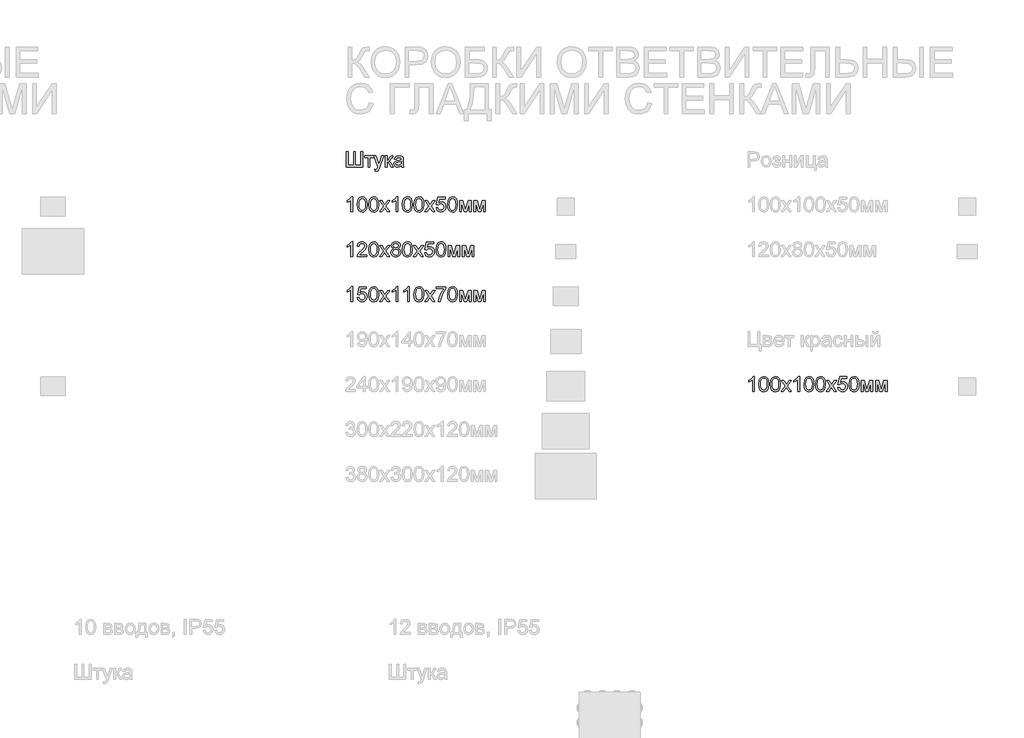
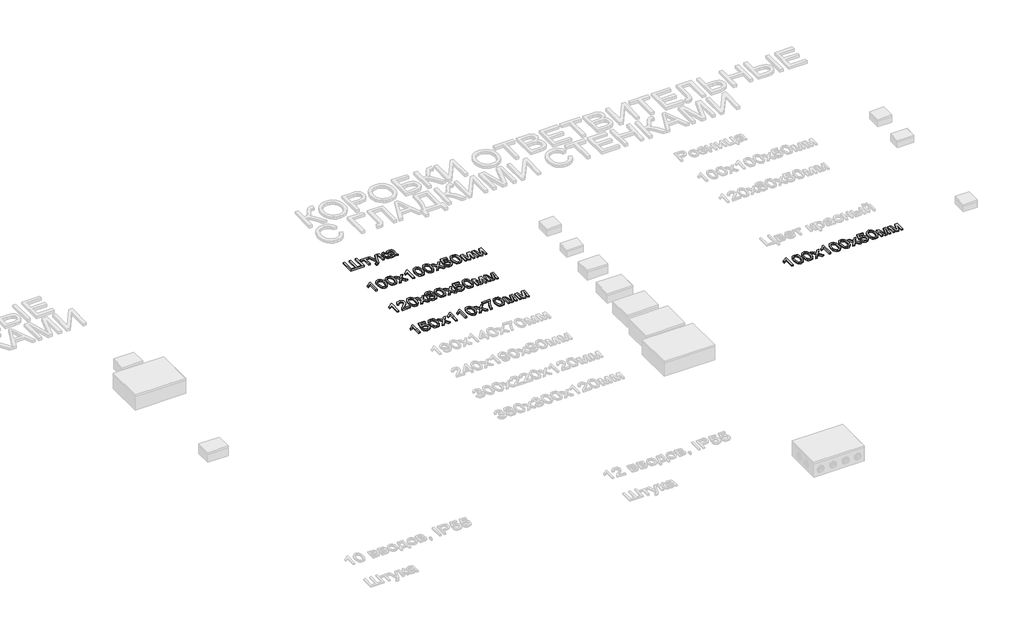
# One storey, part 30 of 98: 5 proxies.
"""IFC4 building model written with IfcOpenShell, lengths in millimetres."""

from ifc_helpers import new_model, si_unit, origin, origin_with_axes, place, context, project, spatial, polyline, outline, extrude, element, save

model = new_model("IFC4")

# Units and contexts
model_context = context("Model", 3, world=origin())
ifc_project = project(units=[si_unit("LENGTHUNIT", "METRE", prefix="MILLI")], contexts=[model_context])

# Site, building, storey
site = spatial("IfcSite", under=ifc_project)
building = spatial("IfcBuilding", under=site)
storey = spatial("IfcBuildingStorey", under=building, Name="Этаж 01", Elevation=0.0)

# Proxies
placement = place(None, origin())
element("IfcBuildingElementProxy", 1, Name="100", ObjectType="100", at=placement, inside=storey, context=model_context, shape_type="SweptSolid", body=[
    extrude(outline(polyline([(12009.4694239, -42337.5373486), (11996.9123851, -42337.5373486), (11996.9123851, -42259.25206), (11985.0175339, -42267.7256087), (11971.7983076, -42274.0654417), (11971.7983076, -42262.195116), (11990.2046701, -42250.4474176), (12001.37602, -42237.0810385), (12009.4694239, -42237.0810385), (12009.4694239, -42337.5373486)])), origin_with_axes(), (0.0, 0.0, 1.0), 10.0),
    extrude(outline(polyline([(12039.292391, -42288.1185339), (12042.9834736, -42259.2152718), (12053.9463571, -42242.5502175), (12072.2546177, -42237.0810385), (12086.9208466, -42240.3184), (12097.0498642, -42249.65034), (12102.9359761, -42264.5127726), (12105.2168445, -42288.1185339), (12101.56255, -42316.8991687), (12090.6364548, -42333.6010113), (12082.4050951, -42337.7304867), (12072.2546177, -42339.1069785), (12059.2070696, -42336.7157455), (12049.2987812, -42329.5420466), (12041.7939885, -42312.5520298), (12039.292391, -42288.1185339)]), holes=[polyline([(12051.8494297, -42288.0940085), (12053.3209577, -42307.8462059), (12057.7355417, -42319.2781389), (12064.3083666, -42324.7319895), (12072.2546177, -42326.5499397), (12080.2008688, -42324.7258581), (12086.7736938, -42319.2536135), (12091.1882778, -42307.8155491), (12092.6598057, -42288.0940085), (12091.2373287, -42268.7863351), (12086.9698975, -42257.2654973), (12080.4093353, -42251.5449322), (12072.1074649, -42249.6380772), (12064.247053, -42251.3180717), (12057.9317454, -42256.358055), (12053.3700086, -42268.5962627), (12051.8494297, -42288.0940085)])]), origin_with_axes(), (0.0, 0.0, 1.0), 10.0),
    extrude(outline(polyline([(12116.2042534, -42288.1185339), (12119.8953361, -42259.2152718), (12130.8582196, -42242.5502175), (12149.1664802, -42237.0810385), (12163.8327091, -42240.3184), (12173.9617267, -42249.65034), (12179.8478386, -42264.5127726), (12182.128707, -42288.1185339), (12178.4744125, -42316.8991687), (12167.5483172, -42333.6010113), (12159.3169576, -42337.7304867), (12149.1664802, -42339.1069785), (12136.1189321, -42336.7157455), (12126.2106437, -42329.5420466), (12118.705851, -42312.5520298), (12116.2042534, -42288.1185339)]), holes=[polyline([(12128.7612922, -42288.0940085), (12130.2328202, -42307.8462059), (12134.6474041, -42319.2781389), (12141.2202291, -42324.7319895), (12149.1664802, -42326.5499397), (12157.1127313, -42324.7258581), (12163.6855563, -42319.2536135), (12168.1001402, -42307.8155491), (12169.5716682, -42288.0940085), (12168.1491911, -42268.7863351), (12163.88176, -42257.2654973), (12157.3211978, -42251.5449322), (12149.0193274, -42249.6380772), (12141.1589154, -42251.3180717), (12134.8436078, -42256.358055), (12130.2818711, -42268.5962627), (12128.7612922, -42288.0940085)])]), origin_with_axes(), (0.0, 0.0, 1.0), 10.0),
    extrude(outline(polyline([(12188.4072263, -42337.5373486), (12215.2380865, -42300.4548435), (12189.9768562, -42263.7647458), (12205.0845435, -42263.7647458), (12217.2737002, -42281.4230816), (12222.9636084, -42289.7617402), (12227.8932272, -42282.9436605), (12241.7746411, -42263.7647458), (12256.8823284, -42263.7647458), (12230.3457738, -42300.4548435), (12255.9013097, -42337.5373486), (12240.7936225, -42337.5373486), (12225.4161551, -42315.2436997), (12222.5957264, -42311.1724723), (12203.5149136, -42337.5373486), (12188.4072263, -42337.5373486)])), origin_with_axes(), (0.0, 0.0, 1.0), 10.0),
    extrude(outline(polyline([(12310.8383543, -42337.5373486), (12298.2813156, -42337.5373486), (12298.2813156, -42259.25206), (12286.3864644, -42267.7256087), (12273.167238, -42274.0654417), (12273.167238, -42262.195116), (12291.5736005, -42250.4474176), (12302.7449504, -42237.0810385), (12310.8383543, -42237.0810385), (12310.8383543, -42337.5373486)])), origin_with_axes(), (0.0, 0.0, 1.0), 10.0),
    extrude(outline(polyline([(12340.6613214, -42288.1185339), (12344.3524041, -42259.2152718), (12355.3152876, -42242.5502175), (12373.6235482, -42237.0810385), (12388.2897771, -42240.3184), (12398.4187947, -42249.65034), (12404.3049066, -42264.5127726), (12406.5857749, -42288.1185339), (12402.9314805, -42316.8991687), (12392.0053852, -42333.6010113), (12383.7740256, -42337.7304867), (12373.6235482, -42339.1069785), (12360.5760001, -42336.7157455), (12350.6677117, -42329.5420466), (12343.162919, -42312.5520298), (12340.6613214, -42288.1185339)]), holes=[polyline([(12353.2183602, -42288.0940085), (12354.6898882, -42307.8462059), (12359.1044721, -42319.2781389), (12365.6772971, -42324.7319895), (12373.6235482, -42326.5499397), (12381.5697993, -42324.7258581), (12388.1426243, -42319.2536135), (12392.5572082, -42307.8155491), (12394.0287362, -42288.0940085), (12392.6062591, -42268.7863351), (12388.338828, -42257.2654973), (12381.7782657, -42251.5449322), (12373.4763954, -42249.6380772), (12365.6159834, -42251.3180717), (12359.3006758, -42256.358055), (12354.7389391, -42268.5962627), (12353.2183602, -42288.0940085)])]), origin_with_axes(), (0.0, 0.0, 1.0), 10.0),
    extrude(outline(polyline([(12417.5731839, -42288.1185339), (12421.2642666, -42259.2152718), (12432.22715, -42242.5502175), (12450.5354106, -42237.0810385), (12465.2016395, -42240.3184), (12475.3306571, -42249.65034), (12481.216769, -42264.5127726), (12483.4976374, -42288.1185339), (12479.8433429, -42316.8991687), (12468.9172477, -42333.6010113), (12460.685888, -42337.7304867), (12450.5354106, -42339.1069785), (12437.4878625, -42336.7157455), (12427.5795741, -42329.5420466), (12420.0747814, -42312.5520298), (12417.5731839, -42288.1185339)]), holes=[polyline([(12430.1302226, -42288.0940085), (12431.6017506, -42307.8462059), (12436.0163346, -42319.2781389), (12442.5891595, -42324.7319895), (12450.5354106, -42326.5499397), (12458.4816617, -42324.7258581), (12465.0544867, -42319.2536135), (12469.4690707, -42307.8155491), (12470.9405986, -42288.0940085), (12469.5181216, -42268.7863351), (12465.2506904, -42257.2654973), (12458.6901282, -42251.5449322), (12450.3882578, -42249.6380772), (12442.5278459, -42251.3180717), (12436.2125383, -42256.358055), (12431.6508016, -42268.5962627), (12430.1302226, -42288.0940085)])]), origin_with_axes(), (0.0, 0.0, 1.0), 10.0),
    extrude(outline(polyline([(12489.7761568, -42337.5373486), (12516.607017, -42300.4548435), (12491.3457866, -42263.7647458), (12506.4534739, -42263.7647458), (12518.6426307, -42281.4230816), (12524.3325389, -42289.7617402), (12529.2621576, -42282.9436605), (12543.1435716, -42263.7647458), (12558.2512588, -42263.7647458), (12531.7147042, -42300.4548435), (12557.2702402, -42337.5373486), (12542.1625529, -42337.5373486), (12526.7850855, -42315.2436997), (12523.9646569, -42311.1724723), (12504.8838441, -42337.5373486), (12489.7761568, -42337.5373486)])), origin_with_axes(), (0.0, 0.0, 1.0), 10.0),
    extrude(outline(polyline([(12565.1183894, -42310.8536412), (12577.6754282, -42309.2840114), (12584.0029985, -42322.2211949), (12597.124123, -42326.5499397), (12606.1249691, -42325.0446892), (12612.8694724, -42320.5289377), (12617.0817212, -42313.5238514), (12618.4858042, -42304.5505964), (12613.2250916, -42289.6391128), (12606.6185441, -42285.5372286), (12597.3203267, -42284.1699338), (12586.2961296, -42286.3527004), (12579.245058, -42292.0180831), (12566.6880192, -42290.4484532), (12577.6754282, -42238.6506683), (12626.3339534, -42238.6506683), (12626.3339534, -42251.2077071), (12587.8289712, -42251.2077071), (12582.4578941, -42278.8724331), (12591.4280834, -42273.4277796), (12600.8274684, -42271.6128951), (12612.5598384, -42273.8631066), (12622.2995142, -42280.6137412), (12628.8570108, -42290.9021744), (12631.0428429, -42303.7657815), (12629.0746743, -42316.3228202), (12623.1701682, -42327.0649745), (12611.8639283, -42336.0964775), (12597.0750721, -42339.1069785), (12584.7418282, -42337.1725323), (12574.9163132, -42331.3691938), (12568.181007, -42322.3714134), (12565.1183894, -42310.8536412)])), origin_with_axes(), (0.0, 0.0, 1.0), 10.0),
    extrude(outline(polyline([(12642.0302519, -42288.1185339), (12645.7213345, -42259.2152718), (12656.684218, -42242.5502175), (12674.9924786, -42237.0810385), (12689.6587075, -42240.3184), (12699.7877251, -42249.65034), (12705.673837, -42264.5127726), (12707.9547054, -42288.1185339), (12704.3004109, -42316.8991687), (12693.3743157, -42333.6010113), (12685.142956, -42337.7304867), (12674.9924786, -42339.1069785), (12661.9449305, -42336.7157455), (12652.0366421, -42329.5420466), (12644.5318494, -42312.5520298), (12642.0302519, -42288.1185339)]), holes=[polyline([(12654.5872906, -42288.0940085), (12656.0588186, -42307.8462059), (12660.4734026, -42319.2781389), (12667.0462275, -42324.7319895), (12674.9924786, -42326.5499397), (12682.9387297, -42324.7258581), (12689.5115547, -42319.2536135), (12693.9261386, -42307.8155491), (12695.3976666, -42288.0940085), (12693.9751896, -42268.7863351), (12689.7077584, -42257.2654973), (12683.1471962, -42251.5449322), (12674.8453258, -42249.6380772), (12666.9849139, -42251.3180717), (12660.6696063, -42256.358055), (12656.1078695, -42268.5962627), (12654.5872906, -42288.0940085)])]), origin_with_axes(), (0.0, 0.0, 1.0), 10.0),
    extrude(outline(polyline([(12722.081374, -42263.7647458), (12743.6883099, -42263.7647458), (12760.3411015, -42322.8220688), (12778.2937429, -42263.7647458), (12798.9932365, -42263.7647458), (12798.9932365, -42337.5373486), (12786.4361977, -42337.5373486), (12786.4361977, -42278.1366691), (12768.3854545, -42337.5373486), (12751.9043411, -42337.5373486), (12734.6384128, -42275.291715), (12734.6384128, -42337.5373486), (12722.081374, -42337.5373486), (12722.081374, -42263.7647458)])), origin_with_axes(), (0.0, 0.0, 1.0), 10.0),
    extrude(outline(polyline([(12817.8287946, -42263.7647458), (12839.4357305, -42263.7647458), (12856.0885221, -42322.8220688), (12874.0411635, -42263.7647458), (12894.7406571, -42263.7647458), (12894.7406571, -42337.5373486), (12882.1836183, -42337.5373486), (12882.1836183, -42278.1366691), (12864.1328751, -42337.5373486), (12847.6517617, -42337.5373486), (12830.3858334, -42275.291715), (12830.3858334, -42337.5373486), (12817.8287946, -42337.5373486), (12817.8287946, -42263.7647458)])), origin_with_axes(), (0.0, 0.0, 1.0), 10.0),
])
element("IfcBuildingElementProxy", 2, Name="100", ObjectType="100", at=placement, inside=storey, context=model_context, shape_type="SweptSolid", body=[
    extrude(outline(polyline([(11965.5197882, -41937.0810385), (11978.076827, -41937.0810385), (11978.076827, -42024.9803098), (12014.1783134, -42024.9803098), (12014.1783134, -41937.0810385), (12026.7353522, -41937.0810385), (12026.7353522, -42024.9803098), (12062.8368387, -42024.9803098), (12062.8368387, -41937.0810385), (12075.3938774, -41937.0810385), (12075.3938774, -42037.5373486), (11965.5197882, -42037.5373486), (11965.5197882, -41937.0810385)])), origin_with_axes(), (0.0, 0.0, 1.0), 10.0),
    extrude(outline(polyline([(12087.9509162, -41963.7647458), (12147.5968503, -41963.7647458), (12147.5968503, -41976.3217846), (12124.0524027, -41976.3217846), (12124.0524027, -42037.5373486), (12111.4953639, -42037.5373486), (12111.4953639, -41976.3217846), (12087.9509162, -41976.3217846), (12087.9509162, -41963.7647458)])), origin_with_axes(), (0.0, 0.0, 1.0), 10.0),
    extrude(outline(polyline([(12158.5842593, -42065.7906858), (12157.0146294, -42053.6996309), (12163.3912507, -42054.8032769), (12169.350939, -42053.4175881), (12173.0052335, -42049.5548271), (12176.4387988, -42040.3087263), (12177.4198174, -42037.2675685), (12150.73611, -41963.7647458), (12163.9798619, -41963.7647458), (12178.1310559, -42004.7222746), (12183.0606747, -42021.1052862), (12187.9902934, -42006.635261), (12202.533895, -41963.7647458), (12215.6795449, -41963.7647458), (12190.0013817, -42039.3031822), (12183.3304548, -42055.6861937), (12176.0463913, -42064.5398871), (12166.2607302, -42067.3603157), (12158.5842593, -42065.7906858)])), origin_with_axes(), (0.0, 0.0, 1.0), 10.0),
    extrude(outline(polyline([(12226.0783426, -41963.7647458), (12238.6353814, -41963.7647458), (12238.6353814, -41995.1573428), (12247.0476164, -41992.9009999), (12253.9392724, -41979.7553499), (12259.6659688, -41968.4123217), (12264.7182149, -41964.721239), (12273.903002, -41963.7647458), (12276.3064977, -41963.7647458), (12276.3064977, -41976.395361), (12272.9219834, -41976.3217846), (12266.7906168, -41977.6461598), (12262.4741347, -41985.911242), (12257.4096259, -41994.8507744), (12250.3095034, -41999.2285702), (12258.231229, -42004.1152694), (12266.0058019, -42014.4098338), (12279.4457574, -42037.5373486), (12265.171936, -42037.5373486), (12252.0017606, -42014.9003432), (12245.3798847, -42005.3231486), (12238.6353814, -42003.005492), (12238.6353814, -42037.5373486), (12226.0783426, -42037.5373486), (12226.0783426, -41963.7647458)])), origin_with_axes(), (0.0, 0.0, 1.0), 10.0),
    extrude(outline(polyline([(12334.382802, -42028.1195695), (12322.205908, -42036.6299064), (12308.7536897, -42039.1069785), (12298.2598558, -42037.6170564), (12290.5190055, -42033.1472901), (12285.7457366, -42026.3598673), (12284.154647, -42017.9169755), (12286.5581427, -42007.9841617), (12292.8734502, -42000.7736746), (12301.6658299, -41996.6533962), (12312.5306115, -41994.7649353), (12334.3092256, -41990.4484532), (12334.382802, -41987.6525501), (12330.9247113, -41978.3819238), (12317.0432973, -41974.7521548), (12304.3391058, -41977.1679132), (12298.2813156, -41985.7395637), (12285.7242768, -41984.1699338), (12291.1566676, -41971.9072007), (12302.0950256, -41964.721239), (12318.6619781, -41962.195116), (12333.88003, -41964.4269334), (12342.4762059, -41970.0310025), (12346.3267041, -41978.5536021), (12346.9398408, -41989.541011), (12346.9398408, -42005.163733), (12347.5775029, -42026.9791354), (12350.0791005, -42037.5373486), (12337.5220617, -42037.5373486), (12334.382802, -42028.1195695)]), holes=[polyline([(12334.382802, -42003.005492), (12314.1247668, -42006.8559902), (12303.3212989, -42008.8916039), (12298.4284684, -42012.2025419), (12296.7116857, -42017.0340587), (12300.4518193, -42023.8276129), (12311.4269655, -42026.5499397), (12324.1311571, -42023.5455701), (12332.3226629, -42016.2737693), (12334.3092256, -42006.5616846), (12334.382802, -42003.005492)])]), origin_with_axes(), (0.0, 0.0, 1.0), 10.0),
])
element("IfcBuildingElementProxy", 3, Name="100", ObjectType="100", at=placement, inside=storey, context=model_context, shape_type="SweptSolid", body=[
    extrude(outline(polyline([(12009.4694239, -42637.5373486), (11996.9123851, -42637.5373486), (11996.9123851, -42559.25206), (11985.0175339, -42567.7256087), (11971.7983076, -42574.0654417), (11971.7983076, -42562.195116), (11990.2046701, -42550.4474176), (12001.37602, -42537.0810385), (12009.4694239, -42537.0810385), (12009.4694239, -42637.5373486)])), origin_with_axes(), (0.0, 0.0, 1.0), 10.0),
    extrude(outline(polyline([(12103.6472147, -42624.9803098), (12103.6472147, -42637.5373486), (12037.7227611, -42637.5373486), (12039.0716618, -42628.879859), (12046.6990818, -42615.550268), (12062.4199057, -42600.9944038), (12084.100418, -42580.074181), (12089.520546, -42565.8494105), (12084.4069863, -42554.334704), (12071.0528699, -42549.6380772), (12057.1346677, -42554.2243394), (12051.8494297, -42566.9040055), (12039.292391, -42565.3343757), (12042.3366145, -42553.1881385), (12048.9186365, -42544.316051), (12058.6951005, -42538.8897916), (12071.32265, -42537.0810385), (12084.04217, -42539.0921267), (12093.8002399, -42545.1253914), (12100.0082486, -42554.1385003), (12102.0775848, -42565.089121), (12099.8457674, -42576.9962349), (12092.4268138, -42589.308019), (12074.4373842, -42606.5126337), (12059.9918846, -42618.5914259), (12054.3265018, -42624.9803098), (12103.6472147, -42624.9803098)])), origin_with_axes(), (0.0, 0.0, 1.0), 10.0),
    extrude(outline(polyline([(12116.2042534, -42588.1185339), (12119.8953361, -42559.2152718), (12130.8582196, -42542.5502175), (12149.1664802, -42537.0810385), (12163.8327091, -42540.3184), (12173.9617267, -42549.65034), (12179.8478386, -42564.5127726), (12182.128707, -42588.1185339), (12178.4744125, -42616.8991687), (12167.5483172, -42633.6010113), (12159.3169576, -42637.7304867), (12149.1664802, -42639.1069785), (12136.1189321, -42636.7157455), (12126.2106437, -42629.5420466), (12118.705851, -42612.5520298), (12116.2042534, -42588.1185339)]), holes=[polyline([(12128.7612922, -42588.0940085), (12130.2328202, -42607.8462059), (12134.6474041, -42619.2781389), (12141.2202291, -42624.7319895), (12149.1664802, -42626.5499397), (12157.1127313, -42624.7258581), (12163.6855563, -42619.2536135), (12168.1001402, -42607.8155491), (12169.5716682, -42588.0940085), (12168.1491911, -42568.7863351), (12163.88176, -42557.2654973), (12157.3211978, -42551.5449322), (12149.0193274, -42549.6380772), (12141.1589154, -42551.3180717), (12134.8436078, -42556.358055), (12130.2818711, -42568.5962627), (12128.7612922, -42588.0940085)])]), origin_with_axes(), (0.0, 0.0, 1.0), 10.0),
    extrude(outline(polyline([(12188.4072263, -42637.5373486), (12215.2380865, -42600.4548435), (12189.9768562, -42563.7647458), (12205.0845435, -42563.7647458), (12217.2737002, -42581.4230816), (12222.9636084, -42589.7617402), (12227.8932272, -42582.9436605), (12241.7746411, -42563.7647458), (12256.8823284, -42563.7647458), (12230.3457738, -42600.4548435), (12255.9013097, -42637.5373486), (12240.7936225, -42637.5373486), (12225.4161551, -42615.2436997), (12222.5957264, -42611.1724723), (12203.5149136, -42637.5373486), (12188.4072263, -42637.5373486)])), origin_with_axes(), (0.0, 0.0, 1.0), 10.0),
    extrude(outline(polyline([(12282.0454568, -42582.2078965), (12270.6043268, -42574.4087982), (12266.8887186, -42562.2686924), (12268.9120696, -42552.4523745), (12274.9821225, -42544.3405765), (12284.4182957, -42538.895923), (12296.5400075, -42537.0810385), (12308.7352956, -42538.9388425), (12318.2940961, -42544.5122548), (12324.4745136, -42552.7528115), (12326.5346528, -42562.6120489), (12322.8680956, -42574.4455864), (12311.7457966, -42582.2078965), (12325.099913, -42592.0548713), (12329.6739125, -42608.3029927), (12327.4053069, -42620.3082085), (12320.5994899, -42630.2287596), (12310.0903276, -42636.8874238), (12296.7116857, -42639.1069785), (12283.3330438, -42636.8782267), (12272.8238815, -42630.1919714), (12266.0180646, -42620.1763841), (12263.749459, -42607.9596362), (12268.5073994, -42591.33137), (12282.0454568, -42582.2078965)]), holes=[polyline([(12276.3064977, -42607.5181778), (12278.4034251, -42616.9727451), (12285.8223787, -42624.0483421), (12296.8097876, -42626.5499397), (12305.3569126, -42625.2347616), (12311.7703221, -42621.2892272), (12317.1168737, -42607.9105853), (12311.5986438, -42594.274426), (12305.0380815, -42590.227724), (12296.3928547, -42588.8788234), (12287.9652913, -42590.2093299), (12281.6162612, -42594.2008496), (12276.3064977, -42607.5181778)]), polyline([(12279.4457574, -42562.6365744), (12283.8971296, -42572.4958119), (12296.8588385, -42576.3217846), (12309.5630301, -42572.5203373), (12313.977614, -42563.2006601), (12309.4158773, -42553.5498891), (12296.7116857, -42549.6380772), (12283.970706, -42553.46405), (12279.4457574, -42562.6365744)])]), origin_with_axes(), (0.0, 0.0, 1.0), 10.0),
    extrude(outline(polyline([(12340.6613214, -42588.1185339), (12344.3524041, -42559.2152718), (12355.3152876, -42542.5502175), (12373.6235482, -42537.0810385), (12388.2897771, -42540.3184), (12398.4187947, -42549.65034), (12404.3049066, -42564.5127726), (12406.5857749, -42588.1185339), (12402.9314805, -42616.8991687), (12392.0053852, -42633.6010113), (12383.7740256, -42637.7304867), (12373.6235482, -42639.1069785), (12360.5760001, -42636.7157455), (12350.6677117, -42629.5420466), (12343.162919, -42612.5520298), (12340.6613214, -42588.1185339)]), holes=[polyline([(12353.2183602, -42588.0940085), (12354.6898882, -42607.8462059), (12359.1044721, -42619.2781389), (12365.6772971, -42624.7319895), (12373.6235482, -42626.5499397), (12381.5697993, -42624.7258581), (12388.1426243, -42619.2536135), (12392.5572082, -42607.8155491), (12394.0287362, -42588.0940085), (12392.6062591, -42568.7863351), (12388.338828, -42557.2654973), (12381.7782657, -42551.5449322), (12373.4763954, -42549.6380772), (12365.6159834, -42551.3180717), (12359.3006758, -42556.358055), (12354.7389391, -42568.5962627), (12353.2183602, -42588.0940085)])]), origin_with_axes(), (0.0, 0.0, 1.0), 10.0),
    extrude(outline(polyline([(12412.8642943, -42637.5373486), (12439.6951545, -42600.4548435), (12414.4339242, -42563.7647458), (12429.5416114, -42563.7647458), (12441.7307682, -42581.4230816), (12447.4206764, -42589.7617402), (12452.3502951, -42582.9436605), (12466.2317091, -42563.7647458), (12481.3393964, -42563.7647458), (12454.8028418, -42600.4548435), (12480.3583777, -42637.5373486), (12465.2506904, -42637.5373486), (12449.873223, -42615.2436997), (12447.0527944, -42611.1724723), (12427.9719816, -42637.5373486), (12412.8642943, -42637.5373486)])), origin_with_axes(), (0.0, 0.0, 1.0), 10.0),
    extrude(outline(polyline([(12488.2065269, -42610.8536412), (12500.7635657, -42609.2840114), (12507.091136, -42622.2211949), (12520.2122605, -42626.5499397), (12529.2131067, -42625.0446892), (12535.9576099, -42620.5289377), (12540.1698588, -42613.5238514), (12541.5739417, -42604.5505964), (12536.3132292, -42589.6391128), (12529.7066817, -42585.5372286), (12520.4084643, -42584.1699338), (12509.3842671, -42586.3527004), (12502.3331956, -42592.0180831), (12489.7761568, -42590.4484532), (12500.7635657, -42538.6506683), (12549.4220909, -42538.6506683), (12549.4220909, -42551.2077071), (12510.9171088, -42551.2077071), (12505.5460317, -42578.8724331), (12514.516221, -42573.4277796), (12523.9156059, -42571.6128951), (12535.6479759, -42573.8631066), (12545.3876517, -42580.6137412), (12551.9451483, -42590.9021744), (12554.1309805, -42603.7657815), (12552.1628118, -42616.3228202), (12546.2583058, -42627.0649745), (12534.9520658, -42636.0964775), (12520.1632096, -42639.1069785), (12507.8299657, -42637.1725323), (12498.0044508, -42631.3691938), (12491.2691446, -42622.3714134), (12488.2065269, -42610.8536412)])), origin_with_axes(), (0.0, 0.0, 1.0), 10.0),
    extrude(outline(polyline([(12565.1183894, -42588.1185339), (12568.8094721, -42559.2152718), (12579.7723555, -42542.5502175), (12598.0806162, -42537.0810385), (12612.746845, -42540.3184), (12622.8758626, -42549.65034), (12628.7619746, -42564.5127726), (12631.0428429, -42588.1185339), (12627.3885485, -42616.8991687), (12616.4624532, -42633.6010113), (12608.2310936, -42637.7304867), (12598.0806162, -42639.1069785), (12585.0330681, -42636.7157455), (12575.1247797, -42629.5420466), (12567.619987, -42612.5520298), (12565.1183894, -42588.1185339)]), holes=[polyline([(12577.6754282, -42588.0940085), (12579.1469562, -42607.8462059), (12583.5615401, -42619.2781389), (12590.1343651, -42624.7319895), (12598.0806162, -42626.5499397), (12606.0268673, -42624.7258581), (12612.5996922, -42619.2536135), (12617.0142762, -42607.8155491), (12618.4858042, -42588.0940085), (12617.0633271, -42568.7863351), (12612.795896, -42557.2654973), (12606.2353337, -42551.5449322), (12597.9334634, -42549.6380772), (12590.0730514, -42551.3180717), (12583.7577438, -42556.358055), (12579.1960071, -42568.5962627), (12577.6754282, -42588.0940085)])]), origin_with_axes(), (0.0, 0.0, 1.0), 10.0),
    extrude(outline(polyline([(12645.1695116, -42563.7647458), (12666.7764474, -42563.7647458), (12683.4292391, -42622.8220688), (12701.3818804, -42563.7647458), (12722.081374, -42563.7647458), (12722.081374, -42637.5373486), (12709.5243352, -42637.5373486), (12709.5243352, -42578.1366691), (12691.473592, -42637.5373486), (12674.9924786, -42637.5373486), (12657.7265503, -42575.291715), (12657.7265503, -42637.5373486), (12645.1695116, -42637.5373486), (12645.1695116, -42563.7647458)])), origin_with_axes(), (0.0, 0.0, 1.0), 10.0),
    extrude(outline(polyline([(12740.9169322, -42563.7647458), (12762.523868, -42563.7647458), (12779.1766597, -42622.8220688), (12797.129301, -42563.7647458), (12817.8287946, -42563.7647458), (12817.8287946, -42637.5373486), (12805.2717559, -42637.5373486), (12805.2717559, -42578.1366691), (12787.2210126, -42637.5373486), (12770.7398992, -42637.5373486), (12753.4739709, -42575.291715), (12753.4739709, -42637.5373486), (12740.9169322, -42637.5373486), (12740.9169322, -42563.7647458)])), origin_with_axes(), (0.0, 0.0, 1.0), 10.0),
])
element("IfcBuildingElementProxy", 4, Name="100", ObjectType="100", at=placement, inside=storey, context=model_context, shape_type="SweptSolid", body=[
    extrude(outline(polyline([(12009.4694239, -42937.5373486), (11996.9123851, -42937.5373486), (11996.9123851, -42859.25206), (11985.0175339, -42867.7256087), (11971.7983076, -42874.0654417), (11971.7983076, -42862.195116), (11990.2046701, -42850.4474176), (12001.37602, -42837.0810385), (12009.4694239, -42837.0810385), (12009.4694239, -42937.5373486)])), origin_with_axes(), (0.0, 0.0, 1.0), 10.0),
    extrude(outline(polyline([(12039.292391, -42910.8536412), (12051.8494297, -42909.2840114), (12058.1770001, -42922.2211949), (12071.2981245, -42926.5499397), (12080.2989707, -42925.0446892), (12087.0434739, -42920.5289377), (12091.2557228, -42913.5238514), (12092.6598057, -42904.5505964), (12087.3990932, -42889.6391128), (12080.7925457, -42885.5372286), (12071.4943283, -42884.1699338), (12060.4701312, -42886.3527004), (12053.4190596, -42892.0180831), (12040.8620208, -42890.4484532), (12051.8494297, -42838.6506683), (12100.507955, -42838.6506683), (12100.507955, -42851.2077071), (12062.0029728, -42851.2077071), (12056.6318957, -42878.8724331), (12065.602085, -42873.4277796), (12075.00147, -42871.6128951), (12086.7338399, -42873.8631066), (12096.4735157, -42880.6137412), (12103.0310123, -42890.9021744), (12105.2168445, -42903.7657815), (12103.2486758, -42916.3228202), (12097.3441698, -42927.0649745), (12086.0379298, -42936.0964775), (12071.2490736, -42939.1069785), (12058.9158297, -42937.1725323), (12049.0903148, -42931.3691938), (12042.3550086, -42922.3714134), (12039.292391, -42910.8536412)])), origin_with_axes(), (0.0, 0.0, 1.0), 10.0),
    extrude(outline(polyline([(12116.2042534, -42888.1185339), (12119.8953361, -42859.2152718), (12130.8582196, -42842.5502175), (12149.1664802, -42837.0810385), (12163.8327091, -42840.3184), (12173.9617267, -42849.65034), (12179.8478386, -42864.5127726), (12182.128707, -42888.1185339), (12178.4744125, -42916.8991687), (12167.5483172, -42933.6010113), (12159.3169576, -42937.7304867), (12149.1664802, -42939.1069785), (12136.1189321, -42936.7157455), (12126.2106437, -42929.5420466), (12118.705851, -42912.5520298), (12116.2042534, -42888.1185339)]), holes=[polyline([(12128.7612922, -42888.0940085), (12130.2328202, -42907.8462059), (12134.6474041, -42919.2781389), (12141.2202291, -42924.7319895), (12149.1664802, -42926.5499397), (12157.1127313, -42924.7258581), (12163.6855563, -42919.2536135), (12168.1001402, -42907.8155491), (12169.5716682, -42888.0940085), (12168.1491911, -42868.7863351), (12163.88176, -42857.2654973), (12157.3211978, -42851.5449322), (12149.0193274, -42849.6380772), (12141.1589154, -42851.3180717), (12134.8436078, -42856.358055), (12130.2818711, -42868.5962627), (12128.7612922, -42888.0940085)])]), origin_with_axes(), (0.0, 0.0, 1.0), 10.0),
    extrude(outline(polyline([(12188.4072263, -42937.5373486), (12215.2380865, -42900.4548435), (12189.9768562, -42863.7647458), (12205.0845435, -42863.7647458), (12217.2737002, -42881.4230816), (12222.9636084, -42889.7617402), (12227.8932272, -42882.9436605), (12241.7746411, -42863.7647458), (12256.8823284, -42863.7647458), (12230.3457738, -42900.4548435), (12255.9013097, -42937.5373486), (12240.7936225, -42937.5373486), (12225.4161551, -42915.2436997), (12222.5957264, -42911.1724723), (12203.5149136, -42937.5373486), (12188.4072263, -42937.5373486)])), origin_with_axes(), (0.0, 0.0, 1.0), 10.0),
    extrude(outline(polyline([(12310.8383543, -42937.5373486), (12298.2813156, -42937.5373486), (12298.2813156, -42859.25206), (12286.3864644, -42867.7256087), (12273.167238, -42874.0654417), (12273.167238, -42862.195116), (12291.5736005, -42850.4474176), (12302.7449504, -42837.0810385), (12310.8383543, -42837.0810385), (12310.8383543, -42937.5373486)])), origin_with_axes(), (0.0, 0.0, 1.0), 10.0),
    extrude(outline(polyline([(12387.7502168, -42937.5373486), (12375.193178, -42937.5373486), (12375.193178, -42859.25206), (12363.2983268, -42867.7256087), (12350.0791005, -42874.0654417), (12350.0791005, -42862.195116), (12368.485463, -42850.4474176), (12379.6568129, -42837.0810385), (12387.7502168, -42837.0810385), (12387.7502168, -42937.5373486)])), origin_with_axes(), (0.0, 0.0, 1.0), 10.0),
    extrude(outline(polyline([(12417.5731839, -42888.1185339), (12421.2642666, -42859.2152718), (12432.22715, -42842.5502175), (12450.5354106, -42837.0810385), (12465.2016395, -42840.3184), (12475.3306571, -42849.65034), (12481.216769, -42864.5127726), (12483.4976374, -42888.1185339), (12479.8433429, -42916.8991687), (12468.9172477, -42933.6010113), (12460.685888, -42937.7304867), (12450.5354106, -42939.1069785), (12437.4878625, -42936.7157455), (12427.5795741, -42929.5420466), (12420.0747814, -42912.5520298), (12417.5731839, -42888.1185339)]), holes=[polyline([(12430.1302226, -42888.0940085), (12431.6017506, -42907.8462059), (12436.0163346, -42919.2781389), (12442.5891595, -42924.7319895), (12450.5354106, -42926.5499397), (12458.4816617, -42924.7258581), (12465.0544867, -42919.2536135), (12469.4690707, -42907.8155491), (12470.9405986, -42888.0940085), (12469.5181216, -42868.7863351), (12465.2506904, -42857.2654973), (12458.6901282, -42851.5449322), (12450.3882578, -42849.6380772), (12442.5278459, -42851.3180717), (12436.2125383, -42856.358055), (12431.6508016, -42868.5962627), (12430.1302226, -42888.0940085)])]), origin_with_axes(), (0.0, 0.0, 1.0), 10.0),
    extrude(outline(polyline([(12489.7761568, -42937.5373486), (12516.607017, -42900.4548435), (12491.3457866, -42863.7647458), (12506.4534739, -42863.7647458), (12518.6426307, -42881.4230816), (12524.3325389, -42889.7617402), (12529.2621576, -42882.9436605), (12543.1435716, -42863.7647458), (12558.2512588, -42863.7647458), (12531.7147042, -42900.4548435), (12557.2702402, -42937.5373486), (12542.1625529, -42937.5373486), (12526.7850855, -42915.2436997), (12523.9646569, -42911.1724723), (12504.8838441, -42937.5373486), (12489.7761568, -42937.5373486)])), origin_with_axes(), (0.0, 0.0, 1.0), 10.0),
    extrude(outline(polyline([(12565.1183894, -42851.2077071), (12565.1183894, -42838.6506683), (12631.0428429, -42838.6506683), (12631.0428429, -42848.8042114), (12612.3421749, -42875.8190126), (12598.0315652, -42910.2405046), (12593.3717266, -42937.5373486), (12580.8146879, -42937.5373486), (12585.8056203, -42909.210435), (12599.5030932, -42877.1924387), (12618.4858042, -42851.2077071), (12565.1183894, -42851.2077071)])), origin_with_axes(), (0.0, 0.0, 1.0), 10.0),
    extrude(outline(polyline([(12642.0302519, -42888.1185339), (12645.7213345, -42859.2152718), (12656.684218, -42842.5502175), (12674.9924786, -42837.0810385), (12689.6587075, -42840.3184), (12699.7877251, -42849.65034), (12705.673837, -42864.5127726), (12707.9547054, -42888.1185339), (12704.3004109, -42916.8991687), (12693.3743157, -42933.6010113), (12685.142956, -42937.7304867), (12674.9924786, -42939.1069785), (12661.9449305, -42936.7157455), (12652.0366421, -42929.5420466), (12644.5318494, -42912.5520298), (12642.0302519, -42888.1185339)]), holes=[polyline([(12654.5872906, -42888.0940085), (12656.0588186, -42907.8462059), (12660.4734026, -42919.2781389), (12667.0462275, -42924.7319895), (12674.9924786, -42926.5499397), (12682.9387297, -42924.7258581), (12689.5115547, -42919.2536135), (12693.9261386, -42907.8155491), (12695.3976666, -42888.0940085), (12693.9751896, -42868.7863351), (12689.7077584, -42857.2654973), (12683.1471962, -42851.5449322), (12674.8453258, -42849.6380772), (12666.9849139, -42851.3180717), (12660.6696063, -42856.358055), (12656.1078695, -42868.5962627), (12654.5872906, -42888.0940085)])]), origin_with_axes(), (0.0, 0.0, 1.0), 10.0),
    extrude(outline(polyline([(12722.081374, -42863.7647458), (12743.6883099, -42863.7647458), (12760.3411015, -42922.8220688), (12778.2937429, -42863.7647458), (12798.9932365, -42863.7647458), (12798.9932365, -42937.5373486), (12786.4361977, -42937.5373486), (12786.4361977, -42878.1366691), (12768.3854545, -42937.5373486), (12751.9043411, -42937.5373486), (12734.6384128, -42875.291715), (12734.6384128, -42937.5373486), (12722.081374, -42937.5373486), (12722.081374, -42863.7647458)])), origin_with_axes(), (0.0, 0.0, 1.0), 10.0),
    extrude(outline(polyline([(12817.8287946, -42863.7647458), (12839.4357305, -42863.7647458), (12856.0885221, -42922.8220688), (12874.0411635, -42863.7647458), (12894.7406571, -42863.7647458), (12894.7406571, -42937.5373486), (12882.1836183, -42937.5373486), (12882.1836183, -42878.1366691), (12864.1328751, -42937.5373486), (12847.6517617, -42937.5373486), (12830.3858334, -42875.291715), (12830.3858334, -42937.5373486), (12817.8287946, -42937.5373486), (12817.8287946, -42863.7647458)])), origin_with_axes(), (0.0, 0.0, 1.0), 10.0),
])
element("IfcBuildingElementProxy", 5, Name="100", ObjectType="100", at=placement, inside=storey, context=model_context, shape_type="SweptSolid", body=[
    extrude(outline(polyline([(14689.4694239, -43537.5373486), (14676.9123851, -43537.5373486), (14676.9123851, -43459.25206), (14665.0175339, -43467.7256087), (14651.7983076, -43474.0654417), (14651.7983076, -43462.195116), (14670.2046701, -43450.4474176), (14681.37602, -43437.0810385), (14689.4694239, -43437.0810385), (14689.4694239, -43537.5373486)])), origin_with_axes(), (0.0, 0.0, 1.0), 10.0),
    extrude(outline(polyline([(14719.292391, -43488.1185339), (14722.9834736, -43459.2152718), (14733.9463571, -43442.5502175), (14752.2546177, -43437.0810385), (14766.9208466, -43440.3184), (14777.0498642, -43449.65034), (14782.9359761, -43464.5127726), (14785.2168445, -43488.1185339), (14781.56255, -43516.8991687), (14770.6364548, -43533.6010113), (14762.4050951, -43537.7304867), (14752.2546177, -43539.1069785), (14739.2070696, -43536.7157455), (14729.2987812, -43529.5420466), (14721.7939885, -43512.5520298), (14719.292391, -43488.1185339)]), holes=[polyline([(14731.8494297, -43488.0940085), (14733.3209577, -43507.8462059), (14737.7355417, -43519.2781389), (14744.3083666, -43524.7319895), (14752.2546177, -43526.5499397), (14760.2008688, -43524.7258581), (14766.7736938, -43519.2536135), (14771.1882778, -43507.8155491), (14772.6598057, -43488.0940085), (14771.2373287, -43468.7863351), (14766.9698975, -43457.2654973), (14760.4093353, -43451.5449322), (14752.1074649, -43449.6380772), (14744.247053, -43451.3180717), (14737.9317454, -43456.358055), (14733.3700086, -43468.5962627), (14731.8494297, -43488.0940085)])]), origin_with_axes(), (0.0, 0.0, 1.0), 10.0),
    extrude(outline(polyline([(14796.2042534, -43488.1185339), (14799.8953361, -43459.2152718), (14810.8582196, -43442.5502175), (14829.1664802, -43437.0810385), (14843.8327091, -43440.3184), (14853.9617267, -43449.65034), (14859.8478386, -43464.5127726), (14862.128707, -43488.1185339), (14858.4744125, -43516.8991687), (14847.5483172, -43533.6010113), (14839.3169576, -43537.7304867), (14829.1664802, -43539.1069785), (14816.1189321, -43536.7157455), (14806.2106437, -43529.5420466), (14798.705851, -43512.5520298), (14796.2042534, -43488.1185339)]), holes=[polyline([(14808.7612922, -43488.0940085), (14810.2328202, -43507.8462059), (14814.6474041, -43519.2781389), (14821.2202291, -43524.7319895), (14829.1664802, -43526.5499397), (14837.1127313, -43524.7258581), (14843.6855563, -43519.2536135), (14848.1001402, -43507.8155491), (14849.5716682, -43488.0940085), (14848.1491911, -43468.7863351), (14843.88176, -43457.2654973), (14837.3211978, -43451.5449322), (14829.0193274, -43449.6380772), (14821.1589154, -43451.3180717), (14814.8436078, -43456.358055), (14810.2818711, -43468.5962627), (14808.7612922, -43488.0940085)])]), origin_with_axes(), (0.0, 0.0, 1.0), 10.0),
    extrude(outline(polyline([(14868.4072263, -43537.5373486), (14895.2380865, -43500.4548435), (14869.9768562, -43463.7647458), (14885.0845435, -43463.7647458), (14897.2737002, -43481.4230816), (14902.9636084, -43489.7617402), (14907.8932272, -43482.9436605), (14921.7746411, -43463.7647458), (14936.8823284, -43463.7647458), (14910.3457738, -43500.4548435), (14935.9013097, -43537.5373486), (14920.7936225, -43537.5373486), (14905.4161551, -43515.2436997), (14902.5957264, -43511.1724723), (14883.5149136, -43537.5373486), (14868.4072263, -43537.5373486)])), origin_with_axes(), (0.0, 0.0, 1.0), 10.0),
    extrude(outline(polyline([(14990.8383543, -43537.5373486), (14978.2813156, -43537.5373486), (14978.2813156, -43459.25206), (14966.3864644, -43467.7256087), (14953.167238, -43474.0654417), (14953.167238, -43462.195116), (14971.5736005, -43450.4474176), (14982.7449504, -43437.0810385), (14990.8383543, -43437.0810385), (14990.8383543, -43537.5373486)])), origin_with_axes(), (0.0, 0.0, 1.0), 10.0),
    extrude(outline(polyline([(15020.6613214, -43488.1185339), (15024.3524041, -43459.2152718), (15035.3152876, -43442.5502175), (15053.6235482, -43437.0810385), (15068.2897771, -43440.3184), (15078.4187947, -43449.65034), (15084.3049066, -43464.5127726), (15086.5857749, -43488.1185339), (15082.9314805, -43516.8991687), (15072.0053852, -43533.6010113), (15063.7740256, -43537.7304867), (15053.6235482, -43539.1069785), (15040.5760001, -43536.7157455), (15030.6677117, -43529.5420466), (15023.162919, -43512.5520298), (15020.6613214, -43488.1185339)]), holes=[polyline([(15033.2183602, -43488.0940085), (15034.6898882, -43507.8462059), (15039.1044721, -43519.2781389), (15045.6772971, -43524.7319895), (15053.6235482, -43526.5499397), (15061.5697993, -43524.7258581), (15068.1426243, -43519.2536135), (15072.5572082, -43507.8155491), (15074.0287362, -43488.0940085), (15072.6062591, -43468.7863351), (15068.338828, -43457.2654973), (15061.7782657, -43451.5449322), (15053.4763954, -43449.6380772), (15045.6159834, -43451.3180717), (15039.3006758, -43456.358055), (15034.7389391, -43468.5962627), (15033.2183602, -43488.0940085)])]), origin_with_axes(), (0.0, 0.0, 1.0), 10.0),
    extrude(outline(polyline([(15097.5731839, -43488.1185339), (15101.2642666, -43459.2152718), (15112.22715, -43442.5502175), (15130.5354106, -43437.0810385), (15145.2016395, -43440.3184), (15155.3306571, -43449.65034), (15161.216769, -43464.5127726), (15163.4976374, -43488.1185339), (15159.8433429, -43516.8991687), (15148.9172477, -43533.6010113), (15140.685888, -43537.7304867), (15130.5354106, -43539.1069785), (15117.4878625, -43536.7157455), (15107.5795741, -43529.5420466), (15100.0747814, -43512.5520298), (15097.5731839, -43488.1185339)]), holes=[polyline([(15110.1302226, -43488.0940085), (15111.6017506, -43507.8462059), (15116.0163346, -43519.2781389), (15122.5891595, -43524.7319895), (15130.5354106, -43526.5499397), (15138.4816617, -43524.7258581), (15145.0544867, -43519.2536135), (15149.4690707, -43507.8155491), (15150.9405986, -43488.0940085), (15149.5181216, -43468.7863351), (15145.2506904, -43457.2654973), (15138.6901282, -43451.5449322), (15130.3882578, -43449.6380772), (15122.5278459, -43451.3180717), (15116.2125383, -43456.358055), (15111.6508016, -43468.5962627), (15110.1302226, -43488.0940085)])]), origin_with_axes(), (0.0, 0.0, 1.0), 10.0),
    extrude(outline(polyline([(15169.7761568, -43537.5373486), (15196.607017, -43500.4548435), (15171.3457866, -43463.7647458), (15186.4534739, -43463.7647458), (15198.6426307, -43481.4230816), (15204.3325389, -43489.7617402), (15209.2621576, -43482.9436605), (15223.1435716, -43463.7647458), (15238.2512588, -43463.7647458), (15211.7147042, -43500.4548435), (15237.2702402, -43537.5373486), (15222.1625529, -43537.5373486), (15206.7850855, -43515.2436997), (15203.9646569, -43511.1724723), (15184.8838441, -43537.5373486), (15169.7761568, -43537.5373486)])), origin_with_axes(), (0.0, 0.0, 1.0), 10.0),
    extrude(outline(polyline([(15245.1183894, -43510.8536412), (15257.6754282, -43509.2840114), (15264.0029985, -43522.2211949), (15277.124123, -43526.5499397), (15286.1249691, -43525.0446892), (15292.8694724, -43520.5289377), (15297.0817212, -43513.5238514), (15298.4858042, -43504.5505964), (15293.2250916, -43489.6391128), (15286.6185441, -43485.5372286), (15277.3203267, -43484.1699338), (15266.2961296, -43486.3527004), (15259.245058, -43492.0180831), (15246.6880192, -43490.4484532), (15257.6754282, -43438.6506683), (15306.3339534, -43438.6506683), (15306.3339534, -43451.2077071), (15267.8289712, -43451.2077071), (15262.4578941, -43478.8724331), (15271.4280834, -43473.4277796), (15280.8274684, -43471.6128951), (15292.5598384, -43473.8631066), (15302.2995142, -43480.6137412), (15308.8570108, -43490.9021744), (15311.0428429, -43503.7657815), (15309.0746743, -43516.3228202), (15303.1701682, -43527.0649745), (15291.8639283, -43536.0964775), (15277.0750721, -43539.1069785), (15264.7418282, -43537.1725323), (15254.9163132, -43531.3691938), (15248.181007, -43522.3714134), (15245.1183894, -43510.8536412)])), origin_with_axes(), (0.0, 0.0, 1.0), 10.0),
    extrude(outline(polyline([(15322.0302519, -43488.1185339), (15325.7213345, -43459.2152718), (15336.684218, -43442.5502175), (15354.9924786, -43437.0810385), (15369.6587075, -43440.3184), (15379.7877251, -43449.65034), (15385.673837, -43464.5127726), (15387.9547054, -43488.1185339), (15384.3004109, -43516.8991687), (15373.3743157, -43533.6010113), (15365.142956, -43537.7304867), (15354.9924786, -43539.1069785), (15341.9449305, -43536.7157455), (15332.0366421, -43529.5420466), (15324.5318494, -43512.5520298), (15322.0302519, -43488.1185339)]), holes=[polyline([(15334.5872906, -43488.0940085), (15336.0588186, -43507.8462059), (15340.4734026, -43519.2781389), (15347.0462275, -43524.7319895), (15354.9924786, -43526.5499397), (15362.9387297, -43524.7258581), (15369.5115547, -43519.2536135), (15373.9261386, -43507.8155491), (15375.3976666, -43488.0940085), (15373.9751896, -43468.7863351), (15369.7077584, -43457.2654973), (15363.1471962, -43451.5449322), (15354.8453258, -43449.6380772), (15346.9849139, -43451.3180717), (15340.6696063, -43456.358055), (15336.1078695, -43468.5962627), (15334.5872906, -43488.0940085)])]), origin_with_axes(), (0.0, 0.0, 1.0), 10.0),
    extrude(outline(polyline([(15402.081374, -43463.7647458), (15423.6883099, -43463.7647458), (15440.3411015, -43522.8220688), (15458.2937429, -43463.7647458), (15478.9932365, -43463.7647458), (15478.9932365, -43537.5373486), (15466.4361977, -43537.5373486), (15466.4361977, -43478.1366691), (15448.3854545, -43537.5373486), (15431.9043411, -43537.5373486), (15414.6384128, -43475.291715), (15414.6384128, -43537.5373486), (15402.081374, -43537.5373486), (15402.081374, -43463.7647458)])), origin_with_axes(), (0.0, 0.0, 1.0), 10.0),
    extrude(outline(polyline([(15497.8287946, -43463.7647458), (15519.4357305, -43463.7647458), (15536.0885221, -43522.8220688), (15554.0411635, -43463.7647458), (15574.7406571, -43463.7647458), (15574.7406571, -43537.5373486), (15562.1836183, -43537.5373486), (15562.1836183, -43478.1366691), (15544.1328751, -43537.5373486), (15527.6517617, -43537.5373486), (15510.3858334, -43475.291715), (15510.3858334, -43537.5373486), (15497.8287946, -43537.5373486), (15497.8287946, -43463.7647458)])), origin_with_axes(), (0.0, 0.0, 1.0), 10.0),
])

save(model, "model.ifc")
